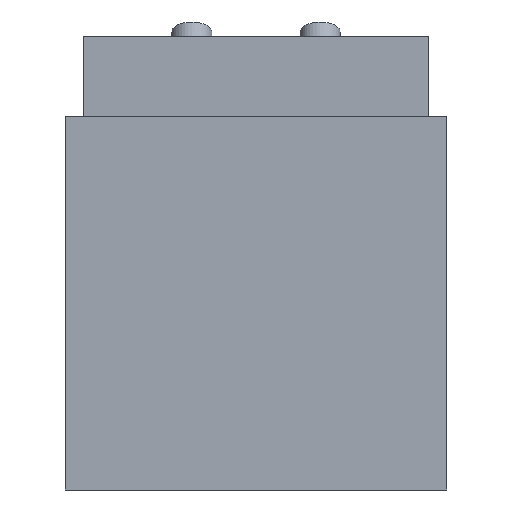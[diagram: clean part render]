
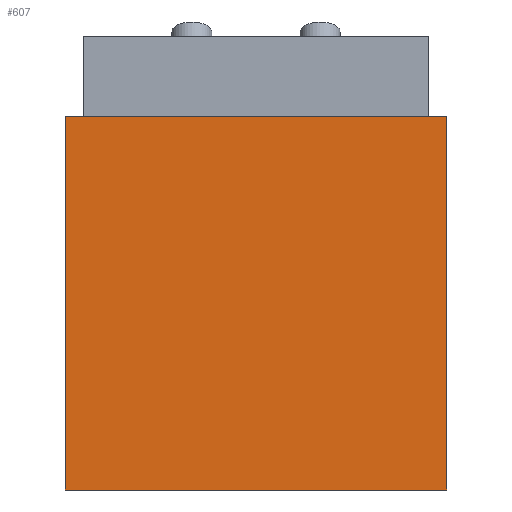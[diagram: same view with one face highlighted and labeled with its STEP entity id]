
A CAD part, front view. The second image highlights one B-rep face of the part: STEP entity #607.
In plain terms, the highlighted planar face has unit normal (0, -1, 0).
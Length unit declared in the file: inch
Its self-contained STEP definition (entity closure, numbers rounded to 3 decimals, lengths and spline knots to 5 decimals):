
#14 = DIRECTION ( 'NONE',  ( 0., 0., -1. ) ) ;
#39 = VECTOR ( 'NONE', #14, 39.37008 ) ;
#64 = EDGE_CURVE ( 'NONE', #494, #489, #750, .T. ) ;
#108 = LINE ( 'NONE', #633, #125 ) ;
#125 = VECTOR ( 'NONE', #208, 39.37008 ) ;
#131 = CARTESIAN_POINT ( 'NONE',  ( -11.875, -11.25, -14.66508 ) ) ;
#142 = EDGE_CURVE ( 'NONE', #583, #192, #108, .T. ) ;
#173 = CARTESIAN_POINT ( 'NONE',  ( -11.875, -11.25, 8.58492 ) ) ;
#192 = VERTEX_POINT ( 'NONE', #131 ) ;
#208 = DIRECTION ( 'NONE',  ( 0., 0., -1. ) ) ;
#241 = ORIENTED_EDGE ( 'NONE', *, *, #809, .F. ) ;
#243 = ORIENTED_EDGE ( 'NONE', *, *, #142, .T. ) ;
#254 = ORIENTED_EDGE ( 'NONE', *, *, #64, .F. ) ;
#261 = ORIENTED_EDGE ( 'NONE', *, *, #810, .T. ) ;
#265 = CARTESIAN_POINT ( 'NONE',  ( 11.875, -11.25, -14.66508 ) ) ;
#357 = AXIS2_PLACEMENT_3D ( 'NONE', #451, #714, #389 ) ;
#365 = VECTOR ( 'NONE', #522, 39.37008 ) ;
#370 = VECTOR ( 'NONE', #542, 39.37008 ) ;
#389 = DIRECTION ( 'NONE',  ( 0., 0., 1. ) ) ;
#429 = CARTESIAN_POINT ( 'NONE',  ( 11.875, -11.25, 8.58492 ) ) ;
#451 = CARTESIAN_POINT ( 'NONE',  ( 11.875, -11.25, -14.66508 ) ) ;
#462 = CARTESIAN_POINT ( 'NONE',  ( 11.875, -11.25, -14.66508 ) ) ;
#474 = CARTESIAN_POINT ( 'NONE',  ( 11.875, -11.25, 8.58492 ) ) ;
#489 = VERTEX_POINT ( 'NONE', #462 ) ;
#494 = VERTEX_POINT ( 'NONE', #474 ) ;
#519 = EDGE_LOOP ( 'NONE', ( #243, #241, #254, #261 ) ) ;
#522 = DIRECTION ( 'NONE',  ( -1., 0., 0. ) ) ;
#523 = CARTESIAN_POINT ( 'NONE',  ( 11.875, -11.25, -14.66508 ) ) ;
#542 = DIRECTION ( 'NONE',  ( -1., 0., 0. ) ) ;
#552 = PLANE ( 'NONE',  #357 ) ;
#583 = VERTEX_POINT ( 'NONE', #173 ) ;
#607 = ADVANCED_FACE ( 'NONE', ( #732 ), #552, .F. ) ;
#608 = LINE ( 'NONE', #429, #365 ) ;
#633 = CARTESIAN_POINT ( 'NONE',  ( -11.875, -11.25, -14.66508 ) ) ;
#645 = LINE ( 'NONE', #265, #370 ) ;
#714 = DIRECTION ( 'NONE',  ( 0., 1., 0. ) ) ;
#732 = FACE_OUTER_BOUND ( 'NONE', #519, .T. ) ;
#750 = LINE ( 'NONE', #523, #39 ) ;
#809 = EDGE_CURVE ( 'NONE', #489, #192, #645, .T. ) ;
#810 = EDGE_CURVE ( 'NONE', #494, #583, #608, .T. ) ;
